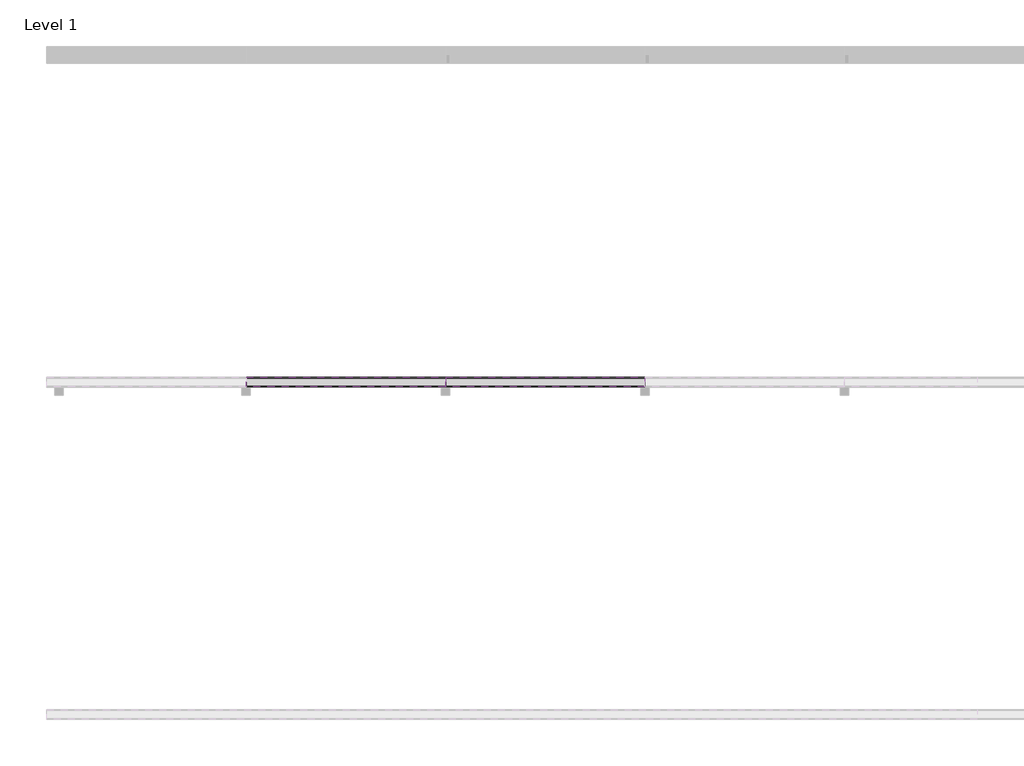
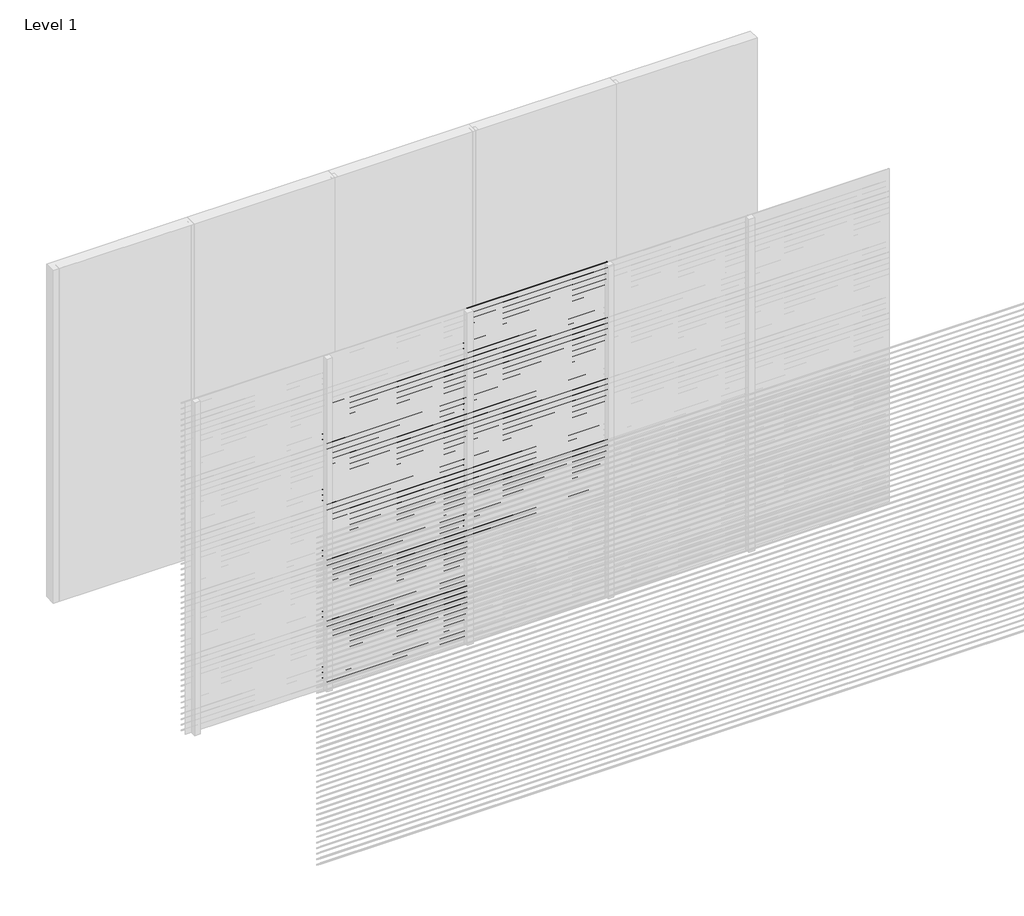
# One storey, part 7 of 16: 93 proxies.
"""IFC4 building model written with IfcOpenShell, lengths in millimetres."""

from ifc_helpers import new_model, si_unit, frame, origin, place, context, project, spatial, polyline, outline, extrude, element, save

model = new_model("IFC4")

# Units and contexts
model_context = context("Model", 3, world=origin())
ifc_project = project(units=[si_unit("LENGTHUNIT", "METRE", prefix="MILLI")], contexts=[model_context])

# Site, building, storey
site = spatial("IfcSite", under=ifc_project)
building = spatial("IfcBuilding", under=site)
storey = spatial("IfcBuildingStorey", under=building, Name="Level 1", Elevation=0.0)

# Proxies
placement = place(None, origin())
element("IfcBuildingElementProxy", 1, Name="Wall Sweeps", at=placement, inside=storey, context=model_context, shape_type="SweptSolid", body=[
    extrude(outline(polyline([(-11995.0, 2550.0), (-11995.0, 2548.0), (-11939.0, 2504.0), (-11939.0, 2496.0), (-11997.0, 2541.5714286), (-11997.0, 2550.0), (-11995.0, 2550.0)])), frame((1200.0, 0.0, 0.0), z_axis=(1.0, 0.0, 0.0), x_axis=(0.0, 1.0, 0.0)), (0.0, 0.0, 1.0), 1200.0),
])
element("IfcBuildingElementProxy", 2, Name="Wall Sweeps", at=placement, inside=storey, context=model_context, shape_type="SweptSolid", body=[
    extrude(outline(polyline([(-11995.0, 2500.0), (-11995.0, 2498.0), (-11939.0, 2454.0), (-11939.0, 2446.0), (-11997.0, 2491.5714286), (-11997.0, 2500.0), (-11995.0, 2500.0)])), frame((1200.0, 0.0, 0.0), z_axis=(1.0, 0.0, 0.0), x_axis=(0.0, 1.0, 0.0)), (0.0, 0.0, 1.0), 1200.0),
])
element("IfcBuildingElementProxy", 3, Name="Wall Sweeps", at=placement, inside=storey, context=model_context, shape_type="SweptSolid", body=[
    extrude(outline(polyline([(-11995.0, 2450.0), (-11995.0, 2448.0), (-11939.0, 2404.0), (-11939.0, 2396.0), (-11997.0, 2441.5714286), (-11997.0, 2450.0), (-11995.0, 2450.0)])), frame((1200.0, 0.0, 0.0), z_axis=(1.0, 0.0, 0.0), x_axis=(0.0, 1.0, 0.0)), (0.0, 0.0, 1.0), 1200.0),
])
element("IfcBuildingElementProxy", 4, Name="Wall Sweeps", at=placement, inside=storey, context=model_context, shape_type="SweptSolid", body=[
    extrude(outline(polyline([(-11995.0, 2400.0), (-11995.0, 2398.0), (-11939.0, 2354.0), (-11939.0, 2346.0), (-11997.0, 2391.5714286), (-11997.0, 2400.0), (-11995.0, 2400.0)])), frame((1200.0, 0.0, 0.0), z_axis=(1.0, 0.0, 0.0), x_axis=(0.0, 1.0, 0.0)), (0.0, 0.0, 1.0), 1200.0),
])
element("IfcBuildingElementProxy", 5, Name="Wall Sweeps", at=placement, inside=storey, context=model_context, shape_type="SweptSolid", body=[
    extrude(outline(polyline([(-11995.0, 2350.0), (-11995.0, 2348.0), (-11939.0, 2304.0), (-11939.0, 2296.0), (-11997.0, 2341.5714286), (-11997.0, 2350.0), (-11995.0, 2350.0)])), frame((1200.0, 0.0, 0.0), z_axis=(1.0, 0.0, 0.0), x_axis=(0.0, 1.0, 0.0)), (0.0, 0.0, 1.0), 1200.0),
])
element("IfcBuildingElementProxy", 6, Name="Wall Sweeps", at=placement, inside=storey, context=model_context, shape_type="SweptSolid", body=[
    extrude(outline(polyline([(-11995.0, 2300.0), (-11995.0, 2298.0), (-11939.0, 2254.0), (-11939.0, 2246.0), (-11997.0, 2291.5714286), (-11997.0, 2300.0), (-11995.0, 2300.0)])), frame((1200.0, 0.0, 0.0), z_axis=(1.0, 0.0, 0.0), x_axis=(0.0, 1.0, 0.0)), (0.0, 0.0, 1.0), 1200.0),
])
element("IfcBuildingElementProxy", 7, Name="Wall Sweeps", at=placement, inside=storey, context=model_context, shape_type="SweptSolid", body=[
    extrude(outline(polyline([(-11995.0, 2250.0), (-11995.0, 2248.0), (-11939.0, 2204.0), (-11939.0, 2196.0), (-11997.0, 2241.5714286), (-11997.0, 2250.0), (-11995.0, 2250.0)])), frame((1200.0, 0.0, 0.0), z_axis=(1.0, 0.0, 0.0), x_axis=(0.0, 1.0, 0.0)), (0.0, 0.0, 1.0), 1200.0),
])
element("IfcBuildingElementProxy", 8, Name="Wall Sweeps", at=placement, inside=storey, context=model_context, shape_type="SweptSolid", body=[
    extrude(outline(polyline([(-11995.0, 2200.0), (-11995.0, 2198.0), (-11939.0, 2154.0), (-11939.0, 2146.0), (-11997.0, 2191.5714286), (-11997.0, 2200.0), (-11995.0, 2200.0)])), frame((1200.0, 0.0, 0.0), z_axis=(1.0, 0.0, 0.0), x_axis=(0.0, 1.0, 0.0)), (0.0, 0.0, 1.0), 1200.0),
])
element("IfcBuildingElementProxy", 9, Name="Wall Sweeps", at=placement, inside=storey, context=model_context, shape_type="SweptSolid", body=[
    extrude(outline(polyline([(-11995.0, 2150.0), (-11995.0, 2148.0), (-11939.0, 2104.0), (-11939.0, 2096.0), (-11997.0, 2141.5714286), (-11997.0, 2150.0), (-11995.0, 2150.0)])), frame((1200.0, 0.0, 0.0), z_axis=(1.0, 0.0, 0.0), x_axis=(0.0, 1.0, 0.0)), (0.0, 0.0, 1.0), 1200.0),
])
element("IfcBuildingElementProxy", 10, Name="Wall Sweeps", at=placement, inside=storey, context=model_context, shape_type="SweptSolid", body=[
    extrude(outline(polyline([(-11995.0, 2100.0), (-11995.0, 2098.0), (-11939.0, 2054.0), (-11939.0, 2046.0), (-11997.0, 2091.5714286), (-11997.0, 2100.0), (-11995.0, 2100.0)])), frame((1200.0, 0.0, 0.0), z_axis=(1.0, 0.0, 0.0), x_axis=(0.0, 1.0, 0.0)), (0.0, 0.0, 1.0), 1200.0),
])
element("IfcBuildingElementProxy", 11, Name="Wall Sweeps", at=placement, inside=storey, context=model_context, shape_type="SweptSolid", body=[
    extrude(outline(polyline([(-11995.0, 2050.0), (-11995.0, 2048.0), (-11939.0, 2004.0), (-11939.0, 1996.0), (-11997.0, 2041.5714286), (-11997.0, 2050.0), (-11995.0, 2050.0)])), frame((1200.0, 0.0, 0.0), z_axis=(1.0, 0.0, 0.0), x_axis=(0.0, 1.0, 0.0)), (0.0, 0.0, 1.0), 1200.0),
])
element("IfcBuildingElementProxy", 12, Name="Wall Sweeps", at=placement, inside=storey, context=model_context, shape_type="SweptSolid", body=[
    extrude(outline(polyline([(-11995.0, 2000.0), (-11995.0, 1998.0), (-11939.0, 1954.0), (-11939.0, 1946.0), (-11997.0, 1991.5714286), (-11997.0, 2000.0), (-11995.0, 2000.0)])), frame((1200.0, 0.0, 0.0), z_axis=(1.0, 0.0, 0.0), x_axis=(0.0, 1.0, 0.0)), (0.0, 0.0, 1.0), 1200.0),
])
element("IfcBuildingElementProxy", 13, Name="Wall Sweeps", at=placement, inside=storey, context=model_context, shape_type="SweptSolid", body=[
    extrude(outline(polyline([(-11995.0, 1950.0), (-11995.0, 1948.0), (-11939.0, 1904.0), (-11939.0, 1896.0), (-11997.0, 1941.5714286), (-11997.0, 1950.0), (-11995.0, 1950.0)])), frame((1200.0, 0.0, 0.0), z_axis=(1.0, 0.0, 0.0), x_axis=(0.0, 1.0, 0.0)), (0.0, 0.0, 1.0), 1200.0),
])
element("IfcBuildingElementProxy", 14, Name="Wall Sweeps", at=placement, inside=storey, context=model_context, shape_type="SweptSolid", body=[
    extrude(outline(polyline([(-11995.0, 1900.0), (-11995.0, 1898.0), (-11939.0, 1854.0), (-11939.0, 1846.0), (-11997.0, 1891.5714286), (-11997.0, 1900.0), (-11995.0, 1900.0)])), frame((1200.0, 0.0, 0.0), z_axis=(1.0, 0.0, 0.0), x_axis=(0.0, 1.0, 0.0)), (0.0, 0.0, 1.0), 1200.0),
])
element("IfcBuildingElementProxy", 15, Name="Wall Sweeps", at=placement, inside=storey, context=model_context, shape_type="SweptSolid", body=[
    extrude(outline(polyline([(-11995.0, 1850.0), (-11995.0, 1848.0), (-11939.0, 1804.0), (-11939.0, 1796.0), (-11997.0, 1841.5714286), (-11997.0, 1850.0), (-11995.0, 1850.0)])), frame((1200.0, 0.0, 0.0), z_axis=(1.0, 0.0, 0.0), x_axis=(0.0, 1.0, 0.0)), (0.0, 0.0, 1.0), 1200.0),
])
element("IfcBuildingElementProxy", 16, Name="Wall Sweeps", at=placement, inside=storey, context=model_context, shape_type="SweptSolid", body=[
    extrude(outline(polyline([(-11995.0, 1800.0), (-11995.0, 1798.0), (-11939.0, 1754.0), (-11939.0, 1746.0), (-11997.0, 1791.5714286), (-11997.0, 1800.0), (-11995.0, 1800.0)])), frame((1200.0, 0.0, 0.0), z_axis=(1.0, 0.0, 0.0), x_axis=(0.0, 1.0, 0.0)), (0.0, 0.0, 1.0), 1200.0),
])
element("IfcBuildingElementProxy", 17, Name="Wall Sweeps", at=placement, inside=storey, context=model_context, shape_type="SweptSolid", body=[
    extrude(outline(polyline([(-11995.0, 1750.0), (-11995.0, 1748.0), (-11939.0, 1704.0), (-11939.0, 1696.0), (-11997.0, 1741.5714286), (-11997.0, 1750.0), (-11995.0, 1750.0)])), frame((1200.0, 0.0, 0.0), z_axis=(1.0, 0.0, 0.0), x_axis=(0.0, 1.0, 0.0)), (0.0, 0.0, 1.0), 1200.0),
])
element("IfcBuildingElementProxy", 18, Name="Wall Sweeps", at=placement, inside=storey, context=model_context, shape_type="SweptSolid", body=[
    extrude(outline(polyline([(-11995.0, 1700.0), (-11995.0, 1698.0), (-11939.0, 1654.0), (-11939.0, 1646.0), (-11997.0, 1691.5714286), (-11997.0, 1700.0), (-11995.0, 1700.0)])), frame((1200.0, 0.0, 0.0), z_axis=(1.0, 0.0, 0.0), x_axis=(0.0, 1.0, 0.0)), (0.0, 0.0, 1.0), 1200.0),
])
element("IfcBuildingElementProxy", 19, Name="Wall Sweeps", at=placement, inside=storey, context=model_context, shape_type="SweptSolid", body=[
    extrude(outline(polyline([(-11995.0, 1650.0), (-11995.0, 1648.0), (-11939.0, 1604.0), (-11939.0, 1596.0), (-11997.0, 1641.5714286), (-11997.0, 1650.0), (-11995.0, 1650.0)])), frame((1200.0, 0.0, 0.0), z_axis=(1.0, 0.0, 0.0), x_axis=(0.0, 1.0, 0.0)), (0.0, 0.0, 1.0), 1200.0),
])
element("IfcBuildingElementProxy", 20, Name="Wall Sweeps", at=placement, inside=storey, context=model_context, shape_type="SweptSolid", body=[
    extrude(outline(polyline([(-11995.0, 1600.0), (-11995.0, 1598.0), (-11939.0, 1554.0), (-11939.0, 1546.0), (-11997.0, 1591.5714286), (-11997.0, 1600.0), (-11995.0, 1600.0)])), frame((1200.0, 0.0, 0.0), z_axis=(1.0, 0.0, 0.0), x_axis=(0.0, 1.0, 0.0)), (0.0, 0.0, 1.0), 1200.0),
])
element("IfcBuildingElementProxy", 21, Name="Wall Sweeps", at=placement, inside=storey, context=model_context, shape_type="SweptSolid", body=[
    extrude(outline(polyline([(-11995.0, 1550.0), (-11995.0, 1548.0), (-11939.0, 1504.0), (-11939.0, 1496.0), (-11997.0, 1541.5714286), (-11997.0, 1550.0), (-11995.0, 1550.0)])), frame((1200.0, 0.0, 0.0), z_axis=(1.0, 0.0, 0.0), x_axis=(0.0, 1.0, 0.0)), (0.0, 0.0, 1.0), 1200.0),
])
element("IfcBuildingElementProxy", 22, Name="Wall Sweeps", at=placement, inside=storey, context=model_context, shape_type="SweptSolid", body=[
    extrude(outline(polyline([(-11995.0, 1500.0), (-11995.0, 1498.0), (-11939.0, 1454.0), (-11939.0, 1446.0), (-11997.0, 1491.5714286), (-11997.0, 1500.0), (-11995.0, 1500.0)])), frame((1200.0, 0.0, 0.0), z_axis=(1.0, 0.0, 0.0), x_axis=(0.0, 1.0, 0.0)), (0.0, 0.0, 1.0), 1200.0),
])
element("IfcBuildingElementProxy", 23, Name="Wall Sweeps", at=placement, inside=storey, context=model_context, shape_type="SweptSolid", body=[
    extrude(outline(polyline([(-11995.0, 1450.0), (-11995.0, 1448.0), (-11939.0, 1404.0), (-11939.0, 1396.0), (-11997.0, 1441.5714286), (-11997.0, 1450.0), (-11995.0, 1450.0)])), frame((1200.0, 0.0, 0.0), z_axis=(1.0, 0.0, 0.0), x_axis=(0.0, 1.0, 0.0)), (0.0, 0.0, 1.0), 1200.0),
])
element("IfcBuildingElementProxy", 24, Name="Wall Sweeps", at=placement, inside=storey, context=model_context, shape_type="SweptSolid", body=[
    extrude(outline(polyline([(-11995.0, 1400.0), (-11995.0, 1398.0), (-11939.0, 1354.0), (-11939.0, 1346.0), (-11997.0, 1391.5714286), (-11997.0, 1400.0), (-11995.0, 1400.0)])), frame((1200.0, 0.0, 0.0), z_axis=(1.0, 0.0, 0.0), x_axis=(0.0, 1.0, 0.0)), (0.0, 0.0, 1.0), 1200.0),
])
element("IfcBuildingElementProxy", 25, Name="Wall Sweeps", at=placement, inside=storey, context=model_context, shape_type="SweptSolid", body=[
    extrude(outline(polyline([(-11995.0, 1350.0), (-11995.0, 1348.0), (-11939.0, 1304.0), (-11939.0, 1296.0), (-11997.0, 1341.5714286), (-11997.0, 1350.0), (-11995.0, 1350.0)])), frame((1200.0, 0.0, 0.0), z_axis=(1.0, 0.0, 0.0), x_axis=(0.0, 1.0, 0.0)), (0.0, 0.0, 1.0), 1200.0),
])
element("IfcBuildingElementProxy", 26, Name="Wall Sweeps", at=placement, inside=storey, context=model_context, shape_type="SweptSolid", body=[
    extrude(outline(polyline([(-11995.0, 1300.0), (-11995.0, 1298.0), (-11939.0, 1254.0), (-11939.0, 1246.0), (-11997.0, 1291.5714286), (-11997.0, 1300.0), (-11995.0, 1300.0)])), frame((1200.0, 0.0, 0.0), z_axis=(1.0, 0.0, 0.0), x_axis=(0.0, 1.0, 0.0)), (0.0, 0.0, 1.0), 1200.0),
])
element("IfcBuildingElementProxy", 27, Name="Wall Sweeps", at=placement, inside=storey, context=model_context, shape_type="SweptSolid", body=[
    extrude(outline(polyline([(-11995.0, 1250.0), (-11995.0, 1248.0), (-11939.0, 1204.0), (-11939.0, 1196.0), (-11997.0, 1241.5714286), (-11997.0, 1250.0), (-11995.0, 1250.0)])), frame((1200.0, 0.0, 0.0), z_axis=(1.0, 0.0, 0.0), x_axis=(0.0, 1.0, 0.0)), (0.0, 0.0, 1.0), 1200.0),
])
element("IfcBuildingElementProxy", 28, Name="Wall Sweeps", at=placement, inside=storey, context=model_context, shape_type="SweptSolid", body=[
    extrude(outline(polyline([(-11995.0, 1200.0), (-11995.0, 1198.0), (-11939.0, 1154.0), (-11939.0, 1146.0), (-11997.0, 1191.5714286), (-11997.0, 1200.0), (-11995.0, 1200.0)])), frame((1200.0, 0.0, 0.0), z_axis=(1.0, 0.0, 0.0), x_axis=(0.0, 1.0, 0.0)), (0.0, 0.0, 1.0), 1200.0),
])
element("IfcBuildingElementProxy", 29, Name="Wall Sweeps", at=placement, inside=storey, context=model_context, shape_type="SweptSolid", body=[
    extrude(outline(polyline([(-11995.0, 1150.0), (-11995.0, 1148.0), (-11939.0, 1104.0), (-11939.0, 1096.0), (-11997.0, 1141.5714286), (-11997.0, 1150.0), (-11995.0, 1150.0)])), frame((1200.0, 0.0, 0.0), z_axis=(1.0, 0.0, 0.0), x_axis=(0.0, 1.0, 0.0)), (0.0, 0.0, 1.0), 1200.0),
])
element("IfcBuildingElementProxy", 30, Name="Wall Sweeps", at=placement, inside=storey, context=model_context, shape_type="SweptSolid", body=[
    extrude(outline(polyline([(-11995.0, 1100.0), (-11995.0, 1098.0), (-11939.0, 1054.0), (-11939.0, 1046.0), (-11997.0, 1091.5714286), (-11997.0, 1100.0), (-11995.0, 1100.0)])), frame((1200.0, 0.0, 0.0), z_axis=(1.0, 0.0, 0.0), x_axis=(0.0, 1.0, 0.0)), (0.0, 0.0, 1.0), 1200.0),
])
element("IfcBuildingElementProxy", 31, Name="Wall Sweeps", at=placement, inside=storey, context=model_context, shape_type="SweptSolid", body=[
    extrude(outline(polyline([(-11995.0, 1050.0), (-11995.0, 1048.0), (-11939.0, 1004.0), (-11939.0, 996.0), (-11997.0, 1041.5714286), (-11997.0, 1050.0), (-11995.0, 1050.0)])), frame((1200.0, 0.0, 0.0), z_axis=(1.0, 0.0, 0.0), x_axis=(0.0, 1.0, 0.0)), (0.0, 0.0, 1.0), 1200.0),
])
element("IfcBuildingElementProxy", 32, Name="Wall Sweeps", at=placement, inside=storey, context=model_context, shape_type="SweptSolid", body=[
    extrude(outline(polyline([(-11995.0, 1000.0), (-11995.0, 998.0), (-11939.0, 954.0), (-11939.0, 946.0), (-11997.0, 991.5714286), (-11997.0, 1000.0), (-11995.0, 1000.0)])), frame((1200.0, 0.0, 0.0), z_axis=(1.0, 0.0, 0.0), x_axis=(0.0, 1.0, 0.0)), (0.0, 0.0, 1.0), 1200.0),
])
element("IfcBuildingElementProxy", 33, Name="Wall Sweeps", at=placement, inside=storey, context=model_context, shape_type="SweptSolid", body=[
    extrude(outline(polyline([(-11995.0, 950.0), (-11995.0, 948.0), (-11939.0, 904.0), (-11939.0, 896.0), (-11997.0, 941.5714286), (-11997.0, 950.0), (-11995.0, 950.0)])), frame((1200.0, 0.0, 0.0), z_axis=(1.0, 0.0, 0.0), x_axis=(0.0, 1.0, 0.0)), (0.0, 0.0, 1.0), 1200.0),
])
element("IfcBuildingElementProxy", 34, Name="Wall Sweeps", at=placement, inside=storey, context=model_context, shape_type="SweptSolid", body=[
    extrude(outline(polyline([(-11995.0, 900.0), (-11995.0, 898.0), (-11939.0, 854.0), (-11939.0, 846.0), (-11997.0, 891.5714286), (-11997.0, 900.0), (-11995.0, 900.0)])), frame((1200.0, 0.0, 0.0), z_axis=(1.0, 0.0, 0.0), x_axis=(0.0, 1.0, 0.0)), (0.0, 0.0, 1.0), 1200.0),
])
element("IfcBuildingElementProxy", 35, Name="Wall Sweeps", at=placement, inside=storey, context=model_context, shape_type="SweptSolid", body=[
    extrude(outline(polyline([(-11995.0, 850.0), (-11995.0, 848.0), (-11939.0, 804.0), (-11939.0, 796.0), (-11997.0, 841.5714286), (-11997.0, 850.0), (-11995.0, 850.0)])), frame((1200.0, 0.0, 0.0), z_axis=(1.0, 0.0, 0.0), x_axis=(0.0, 1.0, 0.0)), (0.0, 0.0, 1.0), 1200.0),
])
element("IfcBuildingElementProxy", 36, Name="Wall Sweeps", at=placement, inside=storey, context=model_context, shape_type="SweptSolid", body=[
    extrude(outline(polyline([(-11995.0, 800.0), (-11995.0, 798.0), (-11939.0, 754.0), (-11939.0, 746.0), (-11997.0, 791.5714286), (-11997.0, 800.0), (-11995.0, 800.0)])), frame((1200.0, 0.0, 0.0), z_axis=(1.0, 0.0, 0.0), x_axis=(0.0, 1.0, 0.0)), (0.0, 0.0, 1.0), 1200.0),
])
element("IfcBuildingElementProxy", 37, Name="Wall Sweeps", at=placement, inside=storey, context=model_context, shape_type="SweptSolid", body=[
    extrude(outline(polyline([(-11995.0, 750.0), (-11995.0, 748.0), (-11939.0, 704.0), (-11939.0, 696.0), (-11997.0, 741.5714286), (-11997.0, 750.0), (-11995.0, 750.0)])), frame((1200.0, 0.0, 0.0), z_axis=(1.0, 0.0, 0.0), x_axis=(0.0, 1.0, 0.0)), (0.0, 0.0, 1.0), 1200.0),
])
element("IfcBuildingElementProxy", 38, Name="Wall Sweeps", at=placement, inside=storey, context=model_context, shape_type="SweptSolid", body=[
    extrude(outline(polyline([(-11995.0, 700.0), (-11995.0, 698.0), (-11939.0, 654.0), (-11939.0, 646.0), (-11997.0, 691.5714286), (-11997.0, 700.0), (-11995.0, 700.0)])), frame((1200.0, 0.0, 0.0), z_axis=(1.0, 0.0, 0.0), x_axis=(0.0, 1.0, 0.0)), (0.0, 0.0, 1.0), 1200.0),
])
element("IfcBuildingElementProxy", 39, Name="Wall Sweeps", at=placement, inside=storey, context=model_context, shape_type="SweptSolid", body=[
    extrude(outline(polyline([(-11995.0, 650.0), (-11995.0, 648.0), (-11939.0, 604.0), (-11939.0, 596.0), (-11997.0, 641.5714286), (-11997.0, 650.0), (-11995.0, 650.0)])), frame((1200.0, 0.0, 0.0), z_axis=(1.0, 0.0, 0.0), x_axis=(0.0, 1.0, 0.0)), (0.0, 0.0, 1.0), 1200.0),
])
element("IfcBuildingElementProxy", 40, Name="Wall Sweeps", at=placement, inside=storey, context=model_context, shape_type="SweptSolid", body=[
    extrude(outline(polyline([(-11995.0, 600.0), (-11995.0, 598.0), (-11939.0, 554.0), (-11939.0, 546.0), (-11997.0, 591.5714286), (-11997.0, 600.0), (-11995.0, 600.0)])), frame((1200.0, 0.0, 0.0), z_axis=(1.0, 0.0, 0.0), x_axis=(0.0, 1.0, 0.0)), (0.0, 0.0, 1.0), 1200.0),
])
element("IfcBuildingElementProxy", 41, Name="Wall Sweeps", at=placement, inside=storey, context=model_context, shape_type="SweptSolid", body=[
    extrude(outline(polyline([(-11995.0, 550.0), (-11995.0, 548.0), (-11939.0, 504.0), (-11939.0, 496.0), (-11997.0, 541.5714286), (-11997.0, 550.0), (-11995.0, 550.0)])), frame((1200.0, 0.0, 0.0), z_axis=(1.0, 0.0, 0.0), x_axis=(0.0, 1.0, 0.0)), (0.0, 0.0, 1.0), 1200.0),
])
element("IfcBuildingElementProxy", 42, Name="Wall Sweeps", at=placement, inside=storey, context=model_context, shape_type="SweptSolid", body=[
    extrude(outline(polyline([(-11995.0, 500.0), (-11995.0, 498.0), (-11939.0, 454.0), (-11939.0, 446.0), (-11997.0, 491.5714286), (-11997.0, 500.0), (-11995.0, 500.0)])), frame((1200.0, 0.0, 0.0), z_axis=(1.0, 0.0, 0.0), x_axis=(0.0, 1.0, 0.0)), (0.0, 0.0, 1.0), 1200.0),
])
element("IfcBuildingElementProxy", 43, Name="Wall Sweeps", at=placement, inside=storey, context=model_context, shape_type="SweptSolid", body=[
    extrude(outline(polyline([(-11995.0, 450.0), (-11995.0, 448.0), (-11939.0, 404.0), (-11939.0, 396.0), (-11997.0, 441.5714286), (-11997.0, 450.0), (-11995.0, 450.0)])), frame((1200.0, 0.0, 0.0), z_axis=(1.0, 0.0, 0.0), x_axis=(0.0, 1.0, 0.0)), (0.0, 0.0, 1.0), 1200.0),
])
element("IfcBuildingElementProxy", 44, Name="Wall Sweeps", at=placement, inside=storey, context=model_context, shape_type="SweptSolid", body=[
    extrude(outline(polyline([(-11995.0, 400.0), (-11995.0, 398.0), (-11939.0, 354.0), (-11939.0, 346.0), (-11997.0, 391.5714286), (-11997.0, 400.0), (-11995.0, 400.0)])), frame((1200.0, 0.0, 0.0), z_axis=(1.0, 0.0, 0.0), x_axis=(0.0, 1.0, 0.0)), (0.0, 0.0, 1.0), 1200.0),
])
element("IfcBuildingElementProxy", 45, Name="Wall Sweeps", at=placement, inside=storey, context=model_context, shape_type="SweptSolid", body=[
    extrude(outline(polyline([(-11995.0, 350.0), (-11995.0, 348.0), (-11939.0, 304.0), (-11939.0, 296.0), (-11997.0, 341.5714286), (-11997.0, 350.0), (-11995.0, 350.0)])), frame((1200.0, 0.0, 0.0), z_axis=(1.0, 0.0, 0.0), x_axis=(0.0, 1.0, 0.0)), (0.0, 0.0, 1.0), 1200.0),
])
element("IfcBuildingElementProxy", 46, Name="Wall Sweeps", at=placement, inside=storey, context=model_context, shape_type="SweptSolid", body=[
    extrude(outline(polyline([(-11995.0, 300.0), (-11995.0, 298.0), (-11939.0, 254.0), (-11939.0, 246.0), (-11997.0, 291.5714286), (-11997.0, 300.0), (-11995.0, 300.0)])), frame((1200.0, 0.0, 0.0), z_axis=(1.0, 0.0, 0.0), x_axis=(0.0, 1.0, 0.0)), (0.0, 0.0, 1.0), 1200.0),
])
element("IfcBuildingElementProxy", 47, Name="Wall Sweeps", at=placement, inside=storey, context=model_context, shape_type="SweptSolid", body=[
    extrude(outline(polyline([(-11995.0, 250.0), (-11995.0, 248.0), (-11939.0, 204.0), (-11939.0, 196.0), (-11997.0, 241.5714286), (-11997.0, 250.0), (-11995.0, 250.0)])), frame((1200.0, 0.0, 0.0), z_axis=(1.0, 0.0, 0.0), x_axis=(0.0, 1.0, 0.0)), (0.0, 0.0, 1.0), 1200.0),
])
element("IfcBuildingElementProxy", 48, Name="Wall Sweeps", at=placement, inside=storey, context=model_context, shape_type="SweptSolid", body=[
    extrude(outline(polyline([(-11995.0, 200.0), (-11995.0, 198.0), (-11939.0, 154.0), (-11939.0, 146.0), (-11997.0, 191.5714286), (-11997.0, 200.0), (-11995.0, 200.0)])), frame((1200.0, 0.0, 0.0), z_axis=(1.0, 0.0, 0.0), x_axis=(0.0, 1.0, 0.0)), (0.0, 0.0, 1.0), 1200.0),
])
element("IfcBuildingElementProxy", 49, Name="Wall Sweeps", at=placement, inside=storey, context=model_context, shape_type="SweptSolid", body=[
    extrude(outline(polyline([(-11995.0, 150.0), (-11995.0, 148.0), (-11939.0, 104.0), (-11939.0, 96.0), (-11997.0, 141.5714286), (-11997.0, 150.0), (-11995.0, 150.0)])), frame((1200.0, 0.0, 0.0), z_axis=(1.0, 0.0, 0.0), x_axis=(0.0, 1.0, 0.0)), (0.0, 0.0, 1.0), 1200.0),
])
element("IfcBuildingElementProxy", 50, Name="Wall Sweeps", at=placement, inside=storey, context=model_context, shape_type="SweptSolid", body=[
    extrude(outline(polyline([(-11995.0, 100.0), (-11995.0, 98.0), (-11939.0, 54.0), (-11939.0, 46.0), (-11997.0, 91.5714286), (-11997.0, 100.0), (-11995.0, 100.0)])), frame((1200.0, 0.0, 0.0), z_axis=(1.0, 0.0, 0.0), x_axis=(0.0, 1.0, 0.0)), (0.0, 0.0, 1.0), 1200.0),
])
element("IfcBuildingElementProxy", 51, Name="Wall Sweeps", at=placement, inside=storey, context=model_context, shape_type="SweptSolid", body=[
    extrude(outline(polyline([(-11995.0, 50.0), (-11995.0, 48.0), (-11939.0, 4.0), (-11939.0, -4.0), (-11997.0, 41.5714286), (-11997.0, 50.0), (-11995.0, 50.0)])), frame((1200.0, 0.0, 0.0), z_axis=(1.0, 0.0, 0.0), x_axis=(0.0, 1.0, 0.0)), (0.0, 0.0, 1.0), 1200.0),
])
element("IfcBuildingElementProxy", 52, Name="Wall Sweeps", at=placement, inside=storey, context=model_context, shape_type="SweptSolid", body=[
    extrude(outline(polyline([(-11995.0, 3000.0), (-11995.0, 2998.0), (-11939.0, 2954.0), (-11939.0, 2946.0), (-11997.0, 2991.5714286), (-11997.0, 3000.0), (-11995.0, 3000.0)])), frame((2400.0, 0.0, 0.0), z_axis=(1.0, 0.0, 0.0), x_axis=(0.0, 1.0, 0.0)), (0.0, 0.0, 1.0), 1200.0),
])
element("IfcBuildingElementProxy", 53, Name="Wall Sweeps", at=placement, inside=storey, context=model_context, shape_type="SweptSolid", body=[
    extrude(outline(polyline([(-11995.0, 2950.0), (-11995.0, 2948.0), (-11939.0, 2904.0), (-11939.0, 2896.0), (-11997.0, 2941.5714286), (-11997.0, 2950.0), (-11995.0, 2950.0)])), frame((2400.0, 0.0, 0.0), z_axis=(1.0, 0.0, 0.0), x_axis=(0.0, 1.0, 0.0)), (0.0, 0.0, 1.0), 1200.0),
])
element("IfcBuildingElementProxy", 54, Name="Wall Sweeps", at=placement, inside=storey, context=model_context, shape_type="SweptSolid", body=[
    extrude(outline(polyline([(-11995.0, 2900.0), (-11995.0, 2898.0), (-11939.0, 2854.0), (-11939.0, 2846.0), (-11997.0, 2891.5714286), (-11997.0, 2900.0), (-11995.0, 2900.0)])), frame((2400.0, 0.0, 0.0), z_axis=(1.0, 0.0, 0.0), x_axis=(0.0, 1.0, 0.0)), (0.0, 0.0, 1.0), 1200.0),
])
element("IfcBuildingElementProxy", 55, Name="Wall Sweeps", at=placement, inside=storey, context=model_context, shape_type="SweptSolid", body=[
    extrude(outline(polyline([(-11995.0, 2850.0), (-11995.0, 2848.0), (-11939.0, 2804.0), (-11939.0, 2796.0), (-11997.0, 2841.5714286), (-11997.0, 2850.0), (-11995.0, 2850.0)])), frame((2400.0, 0.0, 0.0), z_axis=(1.0, 0.0, 0.0), x_axis=(0.0, 1.0, 0.0)), (0.0, 0.0, 1.0), 1200.0),
])
element("IfcBuildingElementProxy", 56, Name="Wall Sweeps", at=placement, inside=storey, context=model_context, shape_type="SweptSolid", body=[
    extrude(outline(polyline([(-11995.0, 2800.0), (-11995.0, 2798.0), (-11939.0, 2754.0), (-11939.0, 2746.0), (-11997.0, 2791.5714286), (-11997.0, 2800.0), (-11995.0, 2800.0)])), frame((2400.0, 0.0, 0.0), z_axis=(1.0, 0.0, 0.0), x_axis=(0.0, 1.0, 0.0)), (0.0, 0.0, 1.0), 1200.0),
])
element("IfcBuildingElementProxy", 57, Name="Wall Sweeps", at=placement, inside=storey, context=model_context, shape_type="SweptSolid", body=[
    extrude(outline(polyline([(-11995.0, 2750.0), (-11995.0, 2748.0), (-11939.0, 2704.0), (-11939.0, 2696.0), (-11997.0, 2741.5714286), (-11997.0, 2750.0), (-11995.0, 2750.0)])), frame((2400.0, 0.0, 0.0), z_axis=(1.0, 0.0, 0.0), x_axis=(0.0, 1.0, 0.0)), (0.0, 0.0, 1.0), 1200.0),
])
element("IfcBuildingElementProxy", 58, Name="Wall Sweeps", at=placement, inside=storey, context=model_context, shape_type="SweptSolid", body=[
    extrude(outline(polyline([(-11995.0, 2700.0), (-11995.0, 2698.0), (-11939.0, 2654.0), (-11939.0, 2646.0), (-11997.0, 2691.5714286), (-11997.0, 2700.0), (-11995.0, 2700.0)])), frame((2400.0, 0.0, 0.0), z_axis=(1.0, 0.0, 0.0), x_axis=(0.0, 1.0, 0.0)), (0.0, 0.0, 1.0), 1200.0),
])
element("IfcBuildingElementProxy", 59, Name="Wall Sweeps", at=placement, inside=storey, context=model_context, shape_type="SweptSolid", body=[
    extrude(outline(polyline([(-11995.0, 2650.0), (-11995.0, 2648.0), (-11939.0, 2604.0), (-11939.0, 2596.0), (-11997.0, 2641.5714286), (-11997.0, 2650.0), (-11995.0, 2650.0)])), frame((2400.0, 0.0, 0.0), z_axis=(1.0, 0.0, 0.0), x_axis=(0.0, 1.0, 0.0)), (0.0, 0.0, 1.0), 1200.0),
])
element("IfcBuildingElementProxy", 60, Name="Wall Sweeps", at=placement, inside=storey, context=model_context, shape_type="SweptSolid", body=[
    extrude(outline(polyline([(-11995.0, 2600.0), (-11995.0, 2598.0), (-11939.0, 2554.0), (-11939.0, 2546.0), (-11997.0, 2591.5714286), (-11997.0, 2600.0), (-11995.0, 2600.0)])), frame((2400.0, 0.0, 0.0), z_axis=(1.0, 0.0, 0.0), x_axis=(0.0, 1.0, 0.0)), (0.0, 0.0, 1.0), 1200.0),
])
element("IfcBuildingElementProxy", 61, Name="Wall Sweeps", at=placement, inside=storey, context=model_context, shape_type="SweptSolid", body=[
    extrude(outline(polyline([(-11995.0, 2550.0), (-11995.0, 2548.0), (-11939.0, 2504.0), (-11939.0, 2496.0), (-11997.0, 2541.5714286), (-11997.0, 2550.0), (-11995.0, 2550.0)])), frame((2400.0, 0.0, 0.0), z_axis=(1.0, 0.0, 0.0), x_axis=(0.0, 1.0, 0.0)), (0.0, 0.0, 1.0), 1200.0),
])
element("IfcBuildingElementProxy", 62, Name="Wall Sweeps", at=placement, inside=storey, context=model_context, shape_type="SweptSolid", body=[
    extrude(outline(polyline([(-11995.0, 2500.0), (-11995.0, 2498.0), (-11939.0, 2454.0), (-11939.0, 2446.0), (-11997.0, 2491.5714286), (-11997.0, 2500.0), (-11995.0, 2500.0)])), frame((2400.0, 0.0, 0.0), z_axis=(1.0, 0.0, 0.0), x_axis=(0.0, 1.0, 0.0)), (0.0, 0.0, 1.0), 1200.0),
])
element("IfcBuildingElementProxy", 63, Name="Wall Sweeps", at=placement, inside=storey, context=model_context, shape_type="SweptSolid", body=[
    extrude(outline(polyline([(-11995.0, 2450.0), (-11995.0, 2448.0), (-11939.0, 2404.0), (-11939.0, 2396.0), (-11997.0, 2441.5714286), (-11997.0, 2450.0), (-11995.0, 2450.0)])), frame((2400.0, 0.0, 0.0), z_axis=(1.0, 0.0, 0.0), x_axis=(0.0, 1.0, 0.0)), (0.0, 0.0, 1.0), 1200.0),
])
element("IfcBuildingElementProxy", 64, Name="Wall Sweeps", at=placement, inside=storey, context=model_context, shape_type="SweptSolid", body=[
    extrude(outline(polyline([(-11995.0, 2400.0), (-11995.0, 2398.0), (-11939.0, 2354.0), (-11939.0, 2346.0), (-11997.0, 2391.5714286), (-11997.0, 2400.0), (-11995.0, 2400.0)])), frame((2400.0, 0.0, 0.0), z_axis=(1.0, 0.0, 0.0), x_axis=(0.0, 1.0, 0.0)), (0.0, 0.0, 1.0), 1200.0),
])
element("IfcBuildingElementProxy", 65, Name="Wall Sweeps", at=placement, inside=storey, context=model_context, shape_type="SweptSolid", body=[
    extrude(outline(polyline([(-11995.0, 2350.0), (-11995.0, 2348.0), (-11939.0, 2304.0), (-11939.0, 2296.0), (-11997.0, 2341.5714286), (-11997.0, 2350.0), (-11995.0, 2350.0)])), frame((2400.0, 0.0, 0.0), z_axis=(1.0, 0.0, 0.0), x_axis=(0.0, 1.0, 0.0)), (0.0, 0.0, 1.0), 1200.0),
])
element("IfcBuildingElementProxy", 66, Name="Wall Sweeps", at=placement, inside=storey, context=model_context, shape_type="SweptSolid", body=[
    extrude(outline(polyline([(-11995.0, 2300.0), (-11995.0, 2298.0), (-11939.0, 2254.0), (-11939.0, 2246.0), (-11997.0, 2291.5714286), (-11997.0, 2300.0), (-11995.0, 2300.0)])), frame((2400.0, 0.0, 0.0), z_axis=(1.0, 0.0, 0.0), x_axis=(0.0, 1.0, 0.0)), (0.0, 0.0, 1.0), 1200.0),
])
element("IfcBuildingElementProxy", 67, Name="Wall Sweeps", at=placement, inside=storey, context=model_context, shape_type="SweptSolid", body=[
    extrude(outline(polyline([(-11995.0, 2250.0), (-11995.0, 2248.0), (-11939.0, 2204.0), (-11939.0, 2196.0), (-11997.0, 2241.5714286), (-11997.0, 2250.0), (-11995.0, 2250.0)])), frame((2400.0, 0.0, 0.0), z_axis=(1.0, 0.0, 0.0), x_axis=(0.0, 1.0, 0.0)), (0.0, 0.0, 1.0), 1200.0),
])
element("IfcBuildingElementProxy", 68, Name="Wall Sweeps", at=placement, inside=storey, context=model_context, shape_type="SweptSolid", body=[
    extrude(outline(polyline([(-11995.0, 2200.0), (-11995.0, 2198.0), (-11939.0, 2154.0), (-11939.0, 2146.0), (-11997.0, 2191.5714286), (-11997.0, 2200.0), (-11995.0, 2200.0)])), frame((2400.0, 0.0, 0.0), z_axis=(1.0, 0.0, 0.0), x_axis=(0.0, 1.0, 0.0)), (0.0, 0.0, 1.0), 1200.0),
])
element("IfcBuildingElementProxy", 69, Name="Wall Sweeps", at=placement, inside=storey, context=model_context, shape_type="SweptSolid", body=[
    extrude(outline(polyline([(-11995.0, 2150.0), (-11995.0, 2148.0), (-11939.0, 2104.0), (-11939.0, 2096.0), (-11997.0, 2141.5714286), (-11997.0, 2150.0), (-11995.0, 2150.0)])), frame((2400.0, 0.0, 0.0), z_axis=(1.0, 0.0, 0.0), x_axis=(0.0, 1.0, 0.0)), (0.0, 0.0, 1.0), 1200.0),
])
element("IfcBuildingElementProxy", 70, Name="Wall Sweeps", at=placement, inside=storey, context=model_context, shape_type="SweptSolid", body=[
    extrude(outline(polyline([(-11995.0, 2100.0), (-11995.0, 2098.0), (-11939.0, 2054.0), (-11939.0, 2046.0), (-11997.0, 2091.5714286), (-11997.0, 2100.0), (-11995.0, 2100.0)])), frame((2400.0, 0.0, 0.0), z_axis=(1.0, 0.0, 0.0), x_axis=(0.0, 1.0, 0.0)), (0.0, 0.0, 1.0), 1200.0),
])
element("IfcBuildingElementProxy", 71, Name="Wall Sweeps", at=placement, inside=storey, context=model_context, shape_type="SweptSolid", body=[
    extrude(outline(polyline([(-11995.0, 2050.0), (-11995.0, 2048.0), (-11939.0, 2004.0), (-11939.0, 1996.0), (-11997.0, 2041.5714286), (-11997.0, 2050.0), (-11995.0, 2050.0)])), frame((2400.0, 0.0, 0.0), z_axis=(1.0, 0.0, 0.0), x_axis=(0.0, 1.0, 0.0)), (0.0, 0.0, 1.0), 1200.0),
])
element("IfcBuildingElementProxy", 72, Name="Wall Sweeps", at=placement, inside=storey, context=model_context, shape_type="SweptSolid", body=[
    extrude(outline(polyline([(-11995.0, 2000.0), (-11995.0, 1998.0), (-11939.0, 1954.0), (-11939.0, 1946.0), (-11997.0, 1991.5714286), (-11997.0, 2000.0), (-11995.0, 2000.0)])), frame((2400.0, 0.0, 0.0), z_axis=(1.0, 0.0, 0.0), x_axis=(0.0, 1.0, 0.0)), (0.0, 0.0, 1.0), 1200.0),
])
element("IfcBuildingElementProxy", 73, Name="Wall Sweeps", at=placement, inside=storey, context=model_context, shape_type="SweptSolid", body=[
    extrude(outline(polyline([(-11995.0, 1950.0), (-11995.0, 1948.0), (-11939.0, 1904.0), (-11939.0, 1896.0), (-11997.0, 1941.5714286), (-11997.0, 1950.0), (-11995.0, 1950.0)])), frame((2400.0, 0.0, 0.0), z_axis=(1.0, 0.0, 0.0), x_axis=(0.0, 1.0, 0.0)), (0.0, 0.0, 1.0), 1200.0),
])
element("IfcBuildingElementProxy", 74, Name="Wall Sweeps", at=placement, inside=storey, context=model_context, shape_type="SweptSolid", body=[
    extrude(outline(polyline([(-11995.0, 1900.0), (-11995.0, 1898.0), (-11939.0, 1854.0), (-11939.0, 1846.0), (-11997.0, 1891.5714286), (-11997.0, 1900.0), (-11995.0, 1900.0)])), frame((2400.0, 0.0, 0.0), z_axis=(1.0, 0.0, 0.0), x_axis=(0.0, 1.0, 0.0)), (0.0, 0.0, 1.0), 1200.0),
])
element("IfcBuildingElementProxy", 75, Name="Wall Sweeps", at=placement, inside=storey, context=model_context, shape_type="SweptSolid", body=[
    extrude(outline(polyline([(-11995.0, 1850.0), (-11995.0, 1848.0), (-11939.0, 1804.0), (-11939.0, 1796.0), (-11997.0, 1841.5714286), (-11997.0, 1850.0), (-11995.0, 1850.0)])), frame((2400.0, 0.0, 0.0), z_axis=(1.0, 0.0, 0.0), x_axis=(0.0, 1.0, 0.0)), (0.0, 0.0, 1.0), 1200.0),
])
element("IfcBuildingElementProxy", 76, Name="Wall Sweeps", at=placement, inside=storey, context=model_context, shape_type="SweptSolid", body=[
    extrude(outline(polyline([(-11995.0, 1800.0), (-11995.0, 1798.0), (-11939.0, 1754.0), (-11939.0, 1746.0), (-11997.0, 1791.5714286), (-11997.0, 1800.0), (-11995.0, 1800.0)])), frame((2400.0, 0.0, 0.0), z_axis=(1.0, 0.0, 0.0), x_axis=(0.0, 1.0, 0.0)), (0.0, 0.0, 1.0), 1200.0),
])
element("IfcBuildingElementProxy", 77, Name="Wall Sweeps", at=placement, inside=storey, context=model_context, shape_type="SweptSolid", body=[
    extrude(outline(polyline([(-11995.0, 1750.0), (-11995.0, 1748.0), (-11939.0, 1704.0), (-11939.0, 1696.0), (-11997.0, 1741.5714286), (-11997.0, 1750.0), (-11995.0, 1750.0)])), frame((2400.0, 0.0, 0.0), z_axis=(1.0, 0.0, 0.0), x_axis=(0.0, 1.0, 0.0)), (0.0, 0.0, 1.0), 1200.0),
])
element("IfcBuildingElementProxy", 78, Name="Wall Sweeps", at=placement, inside=storey, context=model_context, shape_type="SweptSolid", body=[
    extrude(outline(polyline([(-11995.0, 1700.0), (-11995.0, 1698.0), (-11939.0, 1654.0), (-11939.0, 1646.0), (-11997.0, 1691.5714286), (-11997.0, 1700.0), (-11995.0, 1700.0)])), frame((2400.0, 0.0, 0.0), z_axis=(1.0, 0.0, 0.0), x_axis=(0.0, 1.0, 0.0)), (0.0, 0.0, 1.0), 1200.0),
])
element("IfcBuildingElementProxy", 79, Name="Wall Sweeps", at=placement, inside=storey, context=model_context, shape_type="SweptSolid", body=[
    extrude(outline(polyline([(-11995.0, 1650.0), (-11995.0, 1648.0), (-11939.0, 1604.0), (-11939.0, 1596.0), (-11997.0, 1641.5714286), (-11997.0, 1650.0), (-11995.0, 1650.0)])), frame((2400.0, 0.0, 0.0), z_axis=(1.0, 0.0, 0.0), x_axis=(0.0, 1.0, 0.0)), (0.0, 0.0, 1.0), 1200.0),
])
element("IfcBuildingElementProxy", 80, Name="Wall Sweeps", at=placement, inside=storey, context=model_context, shape_type="SweptSolid", body=[
    extrude(outline(polyline([(-11995.0, 1600.0), (-11995.0, 1598.0), (-11939.0, 1554.0), (-11939.0, 1546.0), (-11997.0, 1591.5714286), (-11997.0, 1600.0), (-11995.0, 1600.0)])), frame((2400.0, 0.0, 0.0), z_axis=(1.0, 0.0, 0.0), x_axis=(0.0, 1.0, 0.0)), (0.0, 0.0, 1.0), 1200.0),
])
element("IfcBuildingElementProxy", 81, Name="Wall Sweeps", at=placement, inside=storey, context=model_context, shape_type="SweptSolid", body=[
    extrude(outline(polyline([(-11995.0, 1550.0), (-11995.0, 1548.0), (-11939.0, 1504.0), (-11939.0, 1496.0), (-11997.0, 1541.5714286), (-11997.0, 1550.0), (-11995.0, 1550.0)])), frame((2400.0, 0.0, 0.0), z_axis=(1.0, 0.0, 0.0), x_axis=(0.0, 1.0, 0.0)), (0.0, 0.0, 1.0), 1200.0),
])
element("IfcBuildingElementProxy", 82, Name="Wall Sweeps", at=placement, inside=storey, context=model_context, shape_type="SweptSolid", body=[
    extrude(outline(polyline([(-11995.0, 1500.0), (-11995.0, 1498.0), (-11939.0, 1454.0), (-11939.0, 1446.0), (-11997.0, 1491.5714286), (-11997.0, 1500.0), (-11995.0, 1500.0)])), frame((2400.0, 0.0, 0.0), z_axis=(1.0, 0.0, 0.0), x_axis=(0.0, 1.0, 0.0)), (0.0, 0.0, 1.0), 1200.0),
])
element("IfcBuildingElementProxy", 83, Name="Wall Sweeps", at=placement, inside=storey, context=model_context, shape_type="SweptSolid", body=[
    extrude(outline(polyline([(-11995.0, 1450.0), (-11995.0, 1448.0), (-11939.0, 1404.0), (-11939.0, 1396.0), (-11997.0, 1441.5714286), (-11997.0, 1450.0), (-11995.0, 1450.0)])), frame((2400.0, 0.0, 0.0), z_axis=(1.0, 0.0, 0.0), x_axis=(0.0, 1.0, 0.0)), (0.0, 0.0, 1.0), 1200.0),
])
element("IfcBuildingElementProxy", 84, Name="Wall Sweeps", at=placement, inside=storey, context=model_context, shape_type="SweptSolid", body=[
    extrude(outline(polyline([(-11995.0, 1400.0), (-11995.0, 1398.0), (-11939.0, 1354.0), (-11939.0, 1346.0), (-11997.0, 1391.5714286), (-11997.0, 1400.0), (-11995.0, 1400.0)])), frame((2400.0, 0.0, 0.0), z_axis=(1.0, 0.0, 0.0), x_axis=(0.0, 1.0, 0.0)), (0.0, 0.0, 1.0), 1200.0),
])
element("IfcBuildingElementProxy", 85, Name="Wall Sweeps", at=placement, inside=storey, context=model_context, shape_type="SweptSolid", body=[
    extrude(outline(polyline([(-11995.0, 1350.0), (-11995.0, 1348.0), (-11939.0, 1304.0), (-11939.0, 1296.0), (-11997.0, 1341.5714286), (-11997.0, 1350.0), (-11995.0, 1350.0)])), frame((2400.0, 0.0, 0.0), z_axis=(1.0, 0.0, 0.0), x_axis=(0.0, 1.0, 0.0)), (0.0, 0.0, 1.0), 1200.0),
])
element("IfcBuildingElementProxy", 86, Name="Wall Sweeps", at=placement, inside=storey, context=model_context, shape_type="SweptSolid", body=[
    extrude(outline(polyline([(-11995.0, 1300.0), (-11995.0, 1298.0), (-11939.0, 1254.0), (-11939.0, 1246.0), (-11997.0, 1291.5714286), (-11997.0, 1300.0), (-11995.0, 1300.0)])), frame((2400.0, 0.0, 0.0), z_axis=(1.0, 0.0, 0.0), x_axis=(0.0, 1.0, 0.0)), (0.0, 0.0, 1.0), 1200.0),
])
element("IfcBuildingElementProxy", 87, Name="Wall Sweeps", at=placement, inside=storey, context=model_context, shape_type="SweptSolid", body=[
    extrude(outline(polyline([(-11995.0, 1250.0), (-11995.0, 1248.0), (-11939.0, 1204.0), (-11939.0, 1196.0), (-11997.0, 1241.5714286), (-11997.0, 1250.0), (-11995.0, 1250.0)])), frame((2400.0, 0.0, 0.0), z_axis=(1.0, 0.0, 0.0), x_axis=(0.0, 1.0, 0.0)), (0.0, 0.0, 1.0), 1200.0),
])
element("IfcBuildingElementProxy", 88, Name="Wall Sweeps", at=placement, inside=storey, context=model_context, shape_type="SweptSolid", body=[
    extrude(outline(polyline([(-11995.0, 1200.0), (-11995.0, 1198.0), (-11939.0, 1154.0), (-11939.0, 1146.0), (-11997.0, 1191.5714286), (-11997.0, 1200.0), (-11995.0, 1200.0)])), frame((2400.0, 0.0, 0.0), z_axis=(1.0, 0.0, 0.0), x_axis=(0.0, 1.0, 0.0)), (0.0, 0.0, 1.0), 1200.0),
])
element("IfcBuildingElementProxy", 89, Name="Wall Sweeps", at=placement, inside=storey, context=model_context, shape_type="SweptSolid", body=[
    extrude(outline(polyline([(-11995.0, 1150.0), (-11995.0, 1148.0), (-11939.0, 1104.0), (-11939.0, 1096.0), (-11997.0, 1141.5714286), (-11997.0, 1150.0), (-11995.0, 1150.0)])), frame((2400.0, 0.0, 0.0), z_axis=(1.0, 0.0, 0.0), x_axis=(0.0, 1.0, 0.0)), (0.0, 0.0, 1.0), 1200.0),
])
element("IfcBuildingElementProxy", 90, Name="Wall Sweeps", at=placement, inside=storey, context=model_context, shape_type="SweptSolid", body=[
    extrude(outline(polyline([(-11995.0, 1100.0), (-11995.0, 1098.0), (-11939.0, 1054.0), (-11939.0, 1046.0), (-11997.0, 1091.5714286), (-11997.0, 1100.0), (-11995.0, 1100.0)])), frame((2400.0, 0.0, 0.0), z_axis=(1.0, 0.0, 0.0), x_axis=(0.0, 1.0, 0.0)), (0.0, 0.0, 1.0), 1200.0),
])
element("IfcBuildingElementProxy", 91, Name="Wall Sweeps", at=placement, inside=storey, context=model_context, shape_type="SweptSolid", body=[
    extrude(outline(polyline([(-11995.0, 1050.0), (-11995.0, 1048.0), (-11939.0, 1004.0), (-11939.0, 996.0), (-11997.0, 1041.5714286), (-11997.0, 1050.0), (-11995.0, 1050.0)])), frame((2400.0, 0.0, 0.0), z_axis=(1.0, 0.0, 0.0), x_axis=(0.0, 1.0, 0.0)), (0.0, 0.0, 1.0), 1200.0),
])
element("IfcBuildingElementProxy", 92, Name="Wall Sweeps", at=placement, inside=storey, context=model_context, shape_type="SweptSolid", body=[
    extrude(outline(polyline([(-11995.0, 1000.0), (-11995.0, 998.0), (-11939.0, 954.0), (-11939.0, 946.0), (-11997.0, 991.5714286), (-11997.0, 1000.0), (-11995.0, 1000.0)])), frame((2400.0, 0.0, 0.0), z_axis=(1.0, 0.0, 0.0), x_axis=(0.0, 1.0, 0.0)), (0.0, 0.0, 1.0), 1200.0),
])
element("IfcBuildingElementProxy", 93, Name="Wall Sweeps", at=placement, inside=storey, context=model_context, shape_type="SweptSolid", body=[
    extrude(outline(polyline([(-11995.0, 950.0), (-11995.0, 948.0), (-11939.0, 904.0), (-11939.0, 896.0), (-11997.0, 941.5714286), (-11997.0, 950.0), (-11995.0, 950.0)])), frame((2400.0, 0.0, 0.0), z_axis=(1.0, 0.0, 0.0), x_axis=(0.0, 1.0, 0.0)), (0.0, 0.0, 1.0), 1200.0),
])

save(model, "model.ifc")
